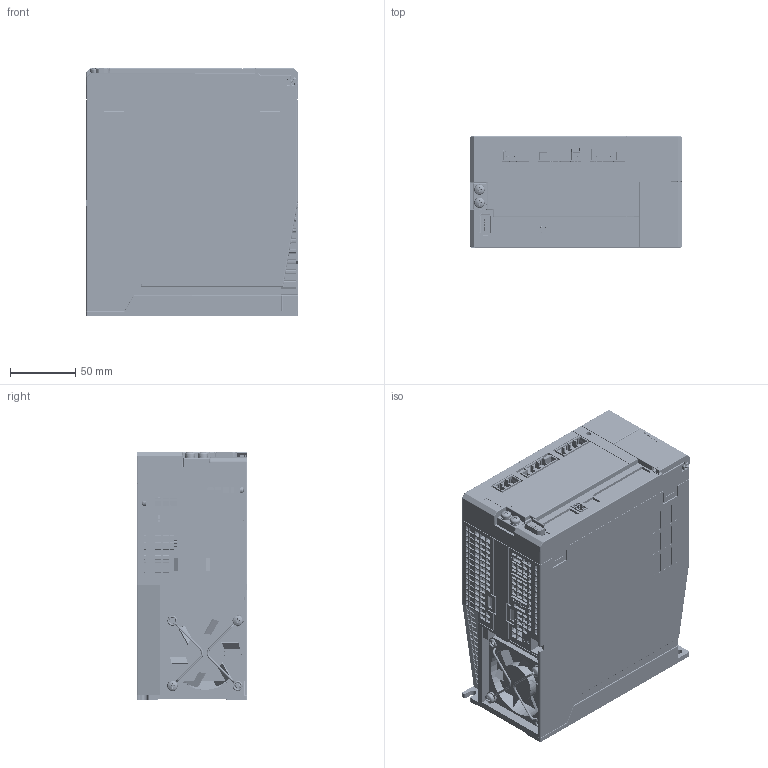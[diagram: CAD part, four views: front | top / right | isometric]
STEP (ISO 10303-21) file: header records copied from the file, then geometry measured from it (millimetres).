
FILE_DESCRIPTION((''),'2;1');
FILE_NAME('D:\999999.黃世程_移交過資料_20171003\0._專案\4.伺服驅動器\20210415_給客人3D\SDP-C框\SDP-C框簡化.stp','2021-04-15T19:24:54',('11254'),(''),'Autodesk Inventor 2008','Autodesk Inventor 2008','');
FILE_SCHEMA(('AUTOMOTIVE_DESIGN { 1 0 10303 214 1 1 1 1 }'));
Length unit declared in the file: millimetre
Products named in the file (2): SDP-C框簡化; SDP-C框簡化_23
Assembly tree (1 placements, depth 2):
  SDP-C框簡化
    SDP-C框簡化_23
Bounding box: 162 x 85 x 190.4 mm (x, y, z)
Volume: 2201821.1 mm3; surface area: 276659.1 mm2
Topology: 1 solids, 2 shells, 10711 faces, 30468 edges, 20104 vertices
Faces by surface type: plane 8273, cylinder 1588, bspline 324, cone 300, torus 132, sphere 94
Full cylindrical faces by diameter (mm): 0.415 x5, 0.64 x47, 0.737 x23, 0.762 x1, 0.8 x10, 1 x3, 1.267 x4, 1.6 x8, 1.679 x2, 2 x2, 2.2 x1, 2.693 x6, 3 x6, 3.2 x6, 3.4 x4, 3.5 x5, 3.621 x13, 3.8 x1, 4 x27, 4.2 x5, 4.3 x13, 4.33 x1, 4.5 x4, 5 x1, 5.5 x2, 6 x5, 8 x11, 9 x2, 10 x2, 30 x1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
Entity records: 352429 total; most frequent: CARTESIAN_POINT 73497, ORIENTED_EDGE 59876, DIRECTION 53695, EDGE_CURVE 29938, VECTOR 24283, LINE 24283, VERTEX_POINT 19946, AXIS2_PLACEMENT_3D 14706
